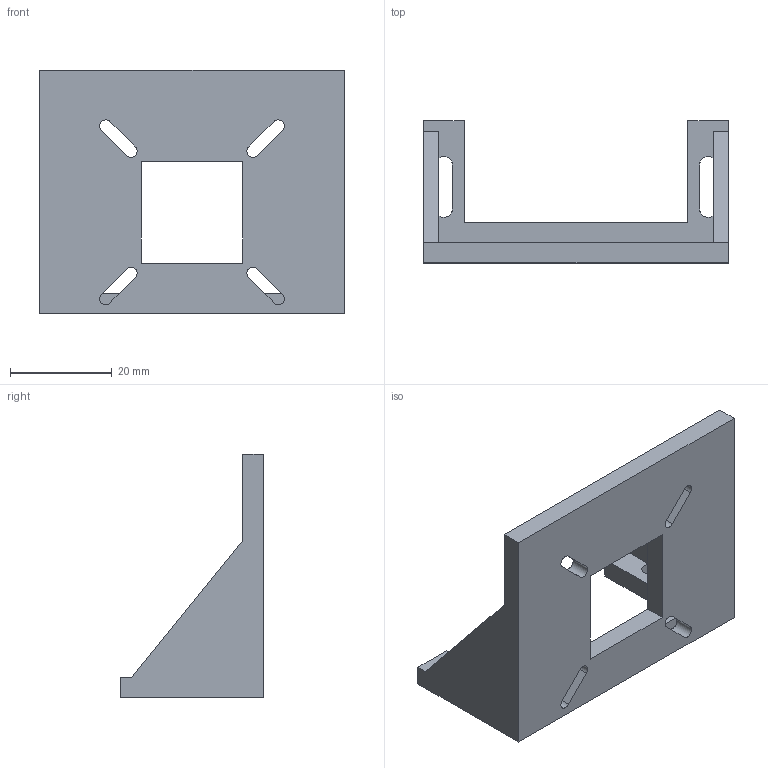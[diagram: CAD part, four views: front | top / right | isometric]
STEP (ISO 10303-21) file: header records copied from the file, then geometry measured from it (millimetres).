
FILE_DESCRIPTION(('Open CASCADE Model'),'2;1');
FILE_NAME('Open CASCADE Shape Model','2026-10-22T07:40:53',('Author'),( 'Open CASCADE'),'Open CASCADE STEP processor 7.8','Open CASCADE 7.8' ,'Unknown');
FILE_SCHEMA(('AUTOMOTIVE_DESIGN { 1 0 10303 214 1 1 1 1 }'));
Length unit declared in the file: millimetre
Products named in the file (1): Open CASCADE STEP translator 7.8 2
Bounding box: 60 x 28 x 48 mm (x, y, z)
Volume: 13283.5 mm3; surface area: 9012.2 mm2
Topology: 1 solids, 1 shells, 48 faces, 150 edges, 100 vertices
Faces by surface type: plane 36, cylinder 12
Entity records: 3674 total; most frequent: CARTESIAN_POINT 647, DIRECTION 568, LINE 394, VECTOR 394, ORIENTED_EDGE 300, PCURVE 300, DEFINITIONAL_REPRESENTATION 300, EDGE_CURVE 150
